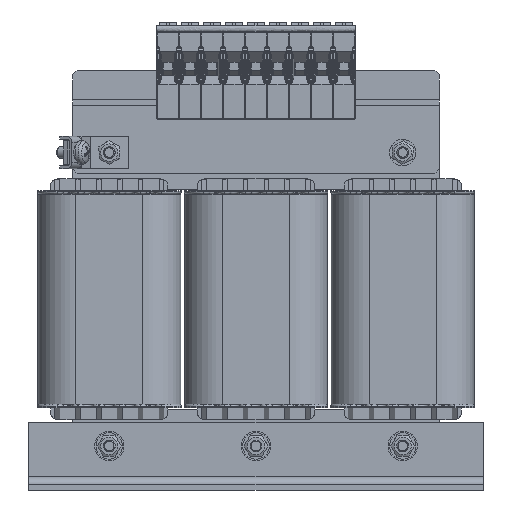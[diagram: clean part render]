
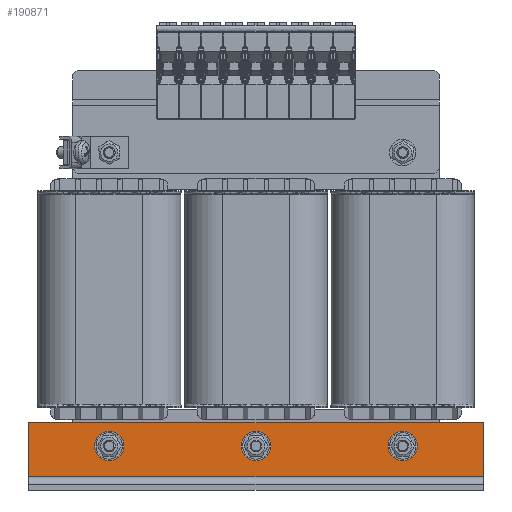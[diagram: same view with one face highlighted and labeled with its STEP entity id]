
A CAD part, front view. The second image highlights one B-rep face of the part: STEP entity #190871.
In plain terms, the highlighted planar face has unit normal (0, -1, 0).
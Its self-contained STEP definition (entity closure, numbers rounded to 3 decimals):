
#4001=FACE_BOUND('',#23655,.T.);
#4002=FACE_BOUND('',#23656,.T.);
#4003=FACE_BOUND('',#23657,.T.);
#13625=FACE_OUTER_BOUND('',#23654,.T.);
#23654=EDGE_LOOP('',(#164611,#164612,#164613,#164614));
#23655=EDGE_LOOP('',(#164615));
#23656=EDGE_LOOP('',(#164616));
#23657=EDGE_LOOP('',(#164617));
#28738=CIRCLE('',#204839,5.);
#28748=CIRCLE('',#204864,5.);
#28781=CIRCLE('',#204955,5.);
#49206=LINE('',#326250,#69667);
#49209=LINE('',#326258,#69670);
#49211=LINE('',#326264,#69672);
#49212=LINE('',#326265,#69673);
#69667=VECTOR('',#253606,10.);
#69670=VECTOR('',#253613,10.);
#69672=VECTOR('',#253619,10.);
#69673=VECTOR('',#253620,10.);
#86142=VERTEX_POINT('',#325642);
#86164=VERTEX_POINT('',#325736);
#86240=VERTEX_POINT('',#326039);
#86311=VERTEX_POINT('',#326247);
#86312=VERTEX_POINT('',#326249);
#86315=VERTEX_POINT('',#326257);
#86317=VERTEX_POINT('',#326263);
#112175=EDGE_CURVE('',#86142,#86142,#28738,.T.);
#112208=EDGE_CURVE('',#86164,#86164,#28748,.T.);
#112329=EDGE_CURVE('',#86240,#86240,#28781,.T.);
#112430=EDGE_CURVE('',#86312,#86311,#49206,.T.);
#112434=EDGE_CURVE('',#86312,#86315,#49209,.T.);
#112437=EDGE_CURVE('',#86311,#86317,#49211,.T.);
#112438=EDGE_CURVE('',#86317,#86315,#49212,.T.);
#164611=ORIENTED_EDGE('',*,*,#112434,.F.);
#164612=ORIENTED_EDGE('',*,*,#112430,.T.);
#164613=ORIENTED_EDGE('',*,*,#112437,.T.);
#164614=ORIENTED_EDGE('',*,*,#112438,.T.);
#164615=ORIENTED_EDGE('',*,*,#112175,.T.);
#164616=ORIENTED_EDGE('',*,*,#112208,.T.);
#164617=ORIENTED_EDGE('',*,*,#112329,.T.);
#171547=PLANE('',#205027);
#190871=ADVANCED_FACE('',(#13625,#4001,#4002,#4003),#171547,.T.);
#204839=AXIS2_PLACEMENT_3D('',#325643,#253092,#253093);
#204864=AXIS2_PLACEMENT_3D('',#325737,#253153,#253154);
#204955=AXIS2_PLACEMENT_3D('',#326040,#253399,#253400);
#205027=AXIS2_PLACEMENT_3D('',#326262,#253617,#253618);
#253092=DIRECTION('center_axis',(0.,1.,0.));
#253093=DIRECTION('ref_axis',(0.,0.,
1.));
#253153=DIRECTION('center_axis',(0.,1.,0.));
#253154=DIRECTION('ref_axis',(0.,0.,
1.));
#253399=DIRECTION('center_axis',(0.,1.,0.));
#253400=DIRECTION('ref_axis',(0.,0.,
1.));
#253606=DIRECTION('',(0.,0.,1.));
#253613=DIRECTION('',(-1.,0.,0.));
#253617=DIRECTION('center_axis',(0.,-1.,0.));
#253618=DIRECTION('ref_axis',(1.,0.,0.));
#253619=DIRECTION('',(-1.,0.,0.));
#253620=DIRECTION('',(0.,0.,-1.));
#325642=CARTESIAN_POINT('',(50.,-15.25,-55.));
#325643=CARTESIAN_POINT('Origin',(50.,-15.25,-50.));
#325736=CARTESIAN_POINT('',(0.,-15.25,-55.));
#325737=CARTESIAN_POINT('Origin',(0.,-15.25,-50.));
#326039=CARTESIAN_POINT('',(-50.,-15.25,-55.));
#326040=CARTESIAN_POINT('Origin',(-50.,-15.25,-50.));
#326247=CARTESIAN_POINT('',(77.5,-15.25,-42.));
#326249=CARTESIAN_POINT('',(77.5,-15.25,-60.5));
#326250=CARTESIAN_POINT('',(77.5,-15.25,-63.));
#326257=CARTESIAN_POINT('',(-77.5,-15.25,-60.5));
#326258=CARTESIAN_POINT('',(0.,-15.25,-60.5));
#326262=CARTESIAN_POINT('Origin',(0.,-15.25,-42.));
#326263=CARTESIAN_POINT('',(-77.5,-15.25,-42.));
#326264=CARTESIAN_POINT('',(0.,-15.25,-42.));
#326265=CARTESIAN_POINT('',(-77.5,-15.25,-63.));
